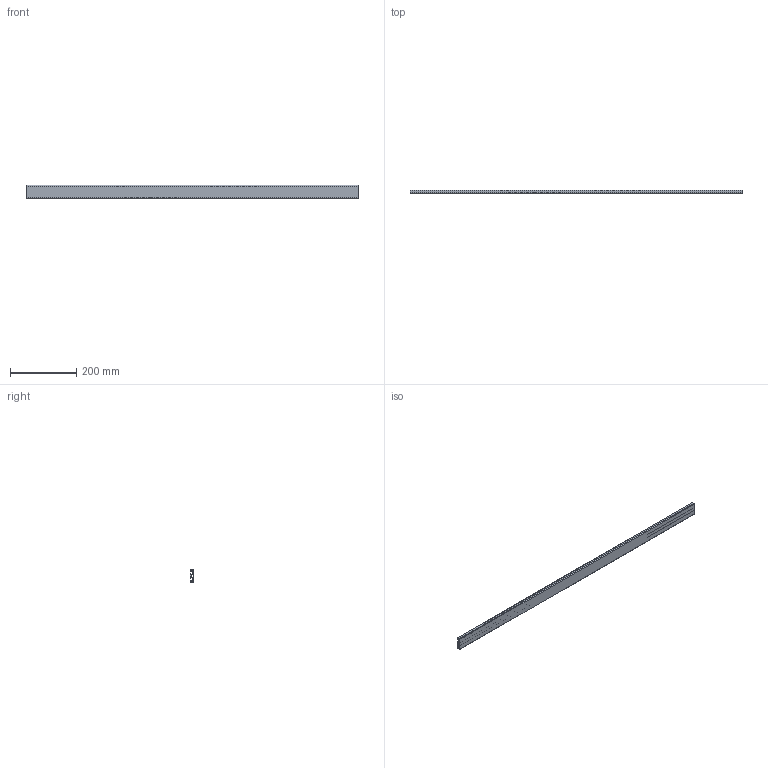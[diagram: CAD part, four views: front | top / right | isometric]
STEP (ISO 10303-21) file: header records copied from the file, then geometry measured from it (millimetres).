
FILE_DESCRIPTION (( 'STEP AP203' ), '1' );
FILE_NAME ('10408_PRO_5_40x10.STEP', '2016-03-02T14:20:09', ( '' ), ( '' ), 'SwSTEP 2.0', 'SolidWorks 2015', '' );
FILE_SCHEMA (( 'CONFIG_CONTROL_DESIGN' ));
Length unit declared in the file: millimetre
Products named in the file (1): 10408_PRO_5_40x10
Bounding box: 1000 x 10 x 40 mm (x, y, z)
Volume: 235969.9 mm3; surface area: 184996.7 mm2
Topology: 1 solids, 1 shells, 63 faces, 183 edges, 122 vertices
Faces by surface type: plane 32, cylinder 31
Entity records: 2188 total; most frequent: DIRECTION 373, CARTESIAN_POINT 369, ORIENTED_EDGE 366, EDGE_CURVE 183, AXIS2_PLACEMENT_3D 126, VERTEX_POINT 122, VECTOR 121, LINE 121
